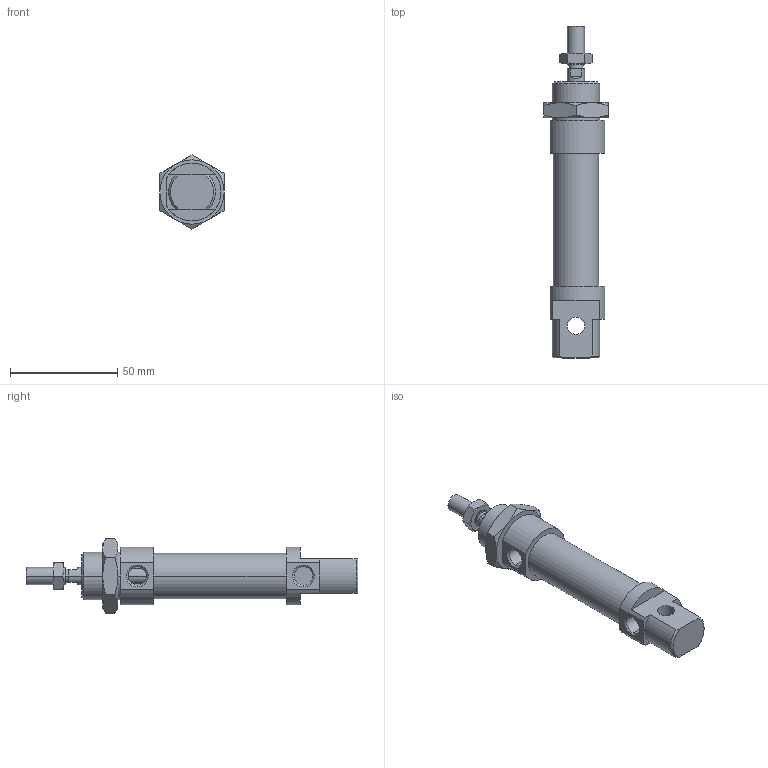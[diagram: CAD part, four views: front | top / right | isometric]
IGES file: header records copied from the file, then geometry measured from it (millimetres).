
Global section: file name: No Iges File Name specified; native system: Autodesk Inventor 2010; preprocessor: AutoDesk Inventor Iges Exporter R2010; author: rivolro1; date: 20090604.093248; units: millimetre
Bounding box: 30 x 155 x 34.64 mm (x, y, z)
Volume: 53181.5 mm3; surface area: 17453.1 mm2
Topology: 4 solids, 4 shells, 110 faces, 249 edges, 152 vertices
Faces by surface type: plane 41, cone 28, bspline 21, cylinder 14, revolution 6
